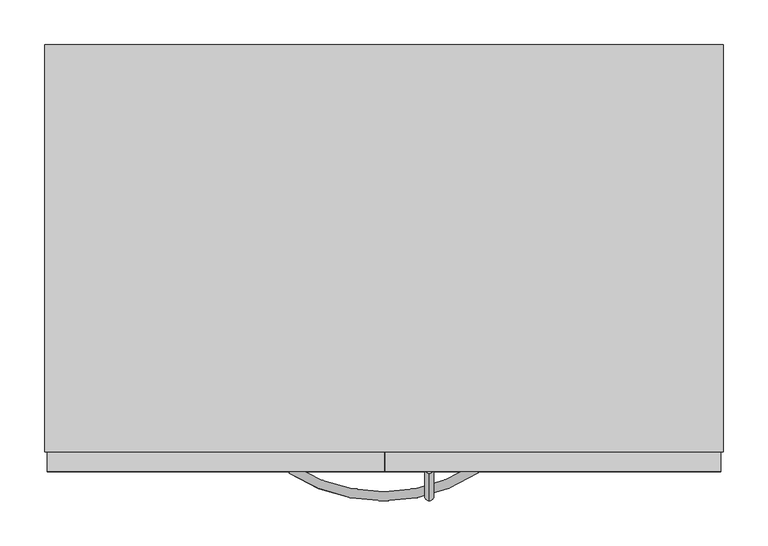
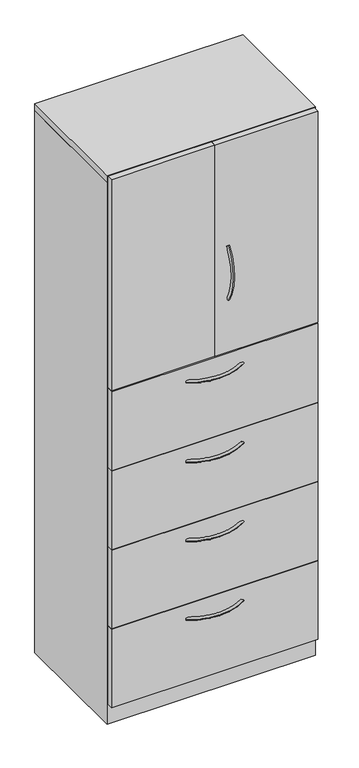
"""IFC4 building model written with IfcOpenShell, lengths in millimetres: furniture geometry, Steelcase - Universal Storage - Cabinet - Combination - Proud Steel : 83 1/2H - Hinged Doors/4 Drawers - 18 7/8D x 30W."""

from ifc_helpers import new_model, si_unit, point, frame, origin, place, context, project, spatial, polyline, circle_curve, ellipse_curve, trimmed, outline, extrude, faceted_brep, source, transform, mapped, element, save
from ifc_brep_helpers import plane_surface, revolved_surface, advanced_brep


def furniture_1bbf713c(model_context):
    return source(origin(), model_context, "Body", "SolidModel", [
        extrude(outline(polyline([(758.8225413, -479.552), (3.1725353, -479.552), (3.1725353, -457.3261219), (758.8225413, -457.3261219), (758.8225413, -479.552)])), frame((0.0, 0.0, 77.724), z_axis=(0.0, 0.0, 1.0), x_axis=(1.0, 0.0, 0.0)), (0.0, 0.0, 1.0), 303.276),
        extrude(outline(polyline([(758.8225413, -479.552), (3.1725353, -479.552), (3.1725353, -457.3261219), (758.8225413, -457.3261219), (758.8225413, -479.552)])), frame((0.0, 0.0, 382.524), z_axis=(0.0, 0.0, 1.0), x_axis=(1.0, 0.0, 0.0)), (0.0, 0.0, 1.0), 303.276),
        extrude(outline(polyline([(758.8225413, -479.552), (3.1725353, -479.552), (3.1725353, -457.3261219), (758.8225413, -457.3261219), (758.8225413, -479.552)])), frame((0.0, 0.0, 687.3240349), z_axis=(0.0, 0.0, 1.0), x_axis=(1.0, 0.0, 0.0)), (0.0, 0.0, 1.0), 303.2759651),
        extrude(outline(polyline([(758.8225413, -479.552), (3.1725353, -479.552), (3.1725353, -457.3261219), (758.8225413, -457.3261219), (758.8225413, -479.552)])), frame((0.0, 0.0, 992.1240349), z_axis=(0.0, 0.0, 1.0), x_axis=(1.0, 0.0, 0.0)), (0.0, 0.0, 1.0), 306.4509893),
        extrude(outline(polyline([(381.0, -479.552), (3.1725353, -479.552), (3.1725353, -457.3261219), (381.0, -457.3261219), (381.0, -479.552)])), frame((0.0, 0.0, 1302.3862596), z_axis=(0.0, 0.0, 1.0), x_axis=(1.0, 0.0, 0.0)), (0.0, 0.0, 1.0), 815.34),
        extrude(outline(polyline([(758.8225413, -479.552), (382.5239992, -479.552), (382.5239992, -457.3261219), (758.8225413, -457.3261219), (758.8225413, -479.552)])), frame((0.0, 0.0, 1302.3862596), z_axis=(0.0, 0.0, 1.0), x_axis=(1.0, 0.0, 0.0)), (0.0, 0.0, 1.0), 815.34),
        advanced_brep(
        [(431.7682496, -481.5705994, 1714.523666), (431.7682496, -473.0108019, 1709.0505073), (431.7682496, -481.1337636, 1502.2167456), (431.7682496, -472.5965612, 1507.7250825)],
        [
            (0, 1, circle_curve(frame((431.7682496, -477.2907007, 1711.7870866), z_axis=(0.0, 0.5386967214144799, 0.842499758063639), x_axis=(0.0, 0.842499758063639, -0.5386967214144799)), 5.08)),
            (1, 0, circle_curve(frame((431.7682496, -477.2907007, 1711.7870866), z_axis=(0.0, 0.5386967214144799, 0.842499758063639), x_axis=(0.0, 0.842499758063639, -0.5386967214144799)), 5.08)),
            (2, 3, circle_curve(frame((431.7682496, -476.8651624, 1504.9709141), z_axis=(0.0, 0.5421591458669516, -0.8402758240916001), x_axis=(0.0, 0.8402758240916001, 0.5421591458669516)), 5.08)),
            (3, 2, circle_curve(frame((431.7682496, -476.8651624, 1504.9709141), z_axis=(0.0, 0.5421591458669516, -0.8402758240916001), x_axis=(0.0, 0.8402758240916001, 0.5421591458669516)), 5.08)),
            (3, 1, circle_curve(frame((431.7682496, -316.0827352, 1608.7102589), z_axis=(-1.0, 0.0, 0.0), x_axis=(0.0, -0.8424997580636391, 0.5386967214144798)), 186.2648211)),
            (0, 2, circle_curve(frame((431.7682496, -316.0827352, 1608.7102589), z_axis=(1.0, 0.0, 0.0), x_axis=(0.0, -0.8424997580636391, 0.5386967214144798)), 196.4248211)),
        ],
        [
            plane_surface(frame((432.5619996, -476.6365286, 1711.3688072), z_axis=(0.0, 0.5386967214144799, 0.8424997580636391), x_axis=(1.0, 0.0, 0.0))),
            plane_surface(frame((432.5619996, -476.2127171, 1505.391882), z_axis=(0.0, 0.5421591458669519, -0.8402758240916), x_axis=(1.0, 0.0, 0.0))),
            revolved_surface(trimmed(ellipse_curve(frame((431.7682496, -477.2907007, 1711.7870866), z_axis=(0.0, 0.5386967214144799, 0.842499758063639), x_axis=(0.0, 0.842499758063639, -0.5386967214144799)), 5.08, 5.08), [point((431.7682496, -481.5705994, 1714.523666))], [point((431.7682496, -473.0108019, 1709.0505073))], True, "CARTESIAN"), (432.5619996, -316.0827352, 1608.7102589), (1.0, 0.0, 0.0)),
            revolved_surface(trimmed(ellipse_curve(frame((431.7682496, -477.2907007, 1711.7870866), z_axis=(0.0, 0.5386967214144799, 0.842499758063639), x_axis=(0.0, 0.842499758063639, -0.5386967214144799)), 5.08, 5.08), [point((431.7682496, -473.0108019, 1709.0505073))], [point((431.7682496, -481.5705994, 1714.523666))], True, "CARTESIAN"), (432.5619996, -316.0827352, 1608.7102589), (1.0, 0.0, 0.0)),
        ],
        [
            (0, [[1, 2]]),
            (1, [[3, 4]]),
            (2, [[5, -1, 6, -4]]),
            (3, [[-6, -2, -5, -3]]),
        ],
    ),
        advanced_brep(
        [(274.4245932, -481.5705994, 1240.6312742), (279.8977519, -473.0108019, 1240.6312742), (486.7315136, -481.1337636, 1240.6312742), (481.2231767, -472.5965612, 1240.6312742)],
        [
            (0, 1, circle_curve(frame((277.1611726, -477.2907007, 1240.6312742), z_axis=(-0.8424997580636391, 0.5386967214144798, 0.0), x_axis=(0.5386967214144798, 0.8424997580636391, 0.0)), 5.08)),
            (1, 0, circle_curve(frame((277.1611726, -477.2907007, 1240.6312742), z_axis=(-0.8424997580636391, 0.5386967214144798, 0.0), x_axis=(0.5386967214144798, 0.8424997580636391, 0.0)), 5.08)),
            (2, 3, circle_curve(frame((483.9773452, -476.8651624, 1240.6312742), z_axis=(0.8402758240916, 0.5421591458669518, 0.0), x_axis=(-0.5421591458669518, 0.8402758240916, 0.0)), 5.08)),
            (3, 2, circle_curve(frame((483.9773452, -476.8651624, 1240.6312742), z_axis=(0.8402758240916, 0.5421591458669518, 0.0), x_axis=(-0.5421591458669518, 0.8402758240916, 0.0)), 5.08)),
            (3, 1, circle_curve(frame((380.2380004, -316.0827352, 1240.6312742), z_axis=(0.0, 0.0, -1.0), x_axis=(-0.5386967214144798, -0.8424997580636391, 0.0)), 186.2648211)),
            (0, 2, circle_curve(frame((380.2380004, -316.0827352, 1240.6312742), z_axis=(0.0, 0.0, 1.0), x_axis=(-0.5386967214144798, -0.8424997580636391, 0.0)), 196.4248211)),
        ],
        [
            plane_surface(frame((277.5794521, -476.6365286, 1241.4250242), z_axis=(-0.8424997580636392, 0.5386967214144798, 0.0), x_axis=(0.0, 0.0, 1.0))),
            plane_surface(frame((483.5563772, -476.2127171, 1241.4250242), z_axis=(0.8402758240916, 0.5421591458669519, 0.0), x_axis=(0.0, 0.0, 1.0))),
            revolved_surface(trimmed(ellipse_curve(frame((277.1611726, -477.2907007, 1240.6312742), z_axis=(-0.8424997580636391, 0.5386967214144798, 0.0), x_axis=(0.5386967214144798, 0.8424997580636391, 0.0)), 5.08, 5.08), [point((274.4245932, -481.5705994, 1240.6312742))], [point((279.8977519, -473.0108019, 1240.6312742))], True, "CARTESIAN"), (380.2380004, -316.0827352, 1241.4250242), (0.0, 0.0, 1.0)),
            revolved_surface(trimmed(ellipse_curve(frame((277.1611726, -477.2907007, 1240.6312742), z_axis=(-0.8424997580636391, 0.5386967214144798, 0.0), x_axis=(0.5386967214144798, 0.8424997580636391, 0.0)), 5.08, 5.08), [point((279.8977519, -473.0108019, 1240.6312742))], [point((274.4245932, -481.5705994, 1240.6312742))], True, "CARTESIAN"), (380.2380004, -316.0827352, 1241.4250242), (0.0, 0.0, 1.0)),
        ],
        [
            (0, [[1, 2]]),
            (1, [[3, 4]]),
            (2, [[5, -1, 6, -4]]),
            (3, [[-6, -2, -5, -3]]),
        ],
    ),
        advanced_brep(
        [(274.4245932, -481.5705994, 323.56425), (279.8977519, -473.0108019, 323.56425), (486.7315136, -481.1337636, 323.56425), (481.2231767, -472.5965612, 323.56425)],
        [
            (0, 1, circle_curve(frame((277.1611726, -477.2907007, 323.56425), z_axis=(-0.8424997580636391, 0.5386967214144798, 0.0), x_axis=(0.5386967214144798, 0.8424997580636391, 0.0)), 5.08)),
            (1, 0, circle_curve(frame((277.1611726, -477.2907007, 323.56425), z_axis=(-0.8424997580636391, 0.5386967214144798, 0.0), x_axis=(0.5386967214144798, 0.8424997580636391, 0.0)), 5.08)),
            (2, 3, circle_curve(frame((483.9773452, -476.8651624, 323.56425), z_axis=(0.8402758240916, 0.5421591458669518, 0.0), x_axis=(-0.5421591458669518, 0.8402758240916, 0.0)), 5.08)),
            (3, 2, circle_curve(frame((483.9773452, -476.8651624, 323.56425), z_axis=(0.8402758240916, 0.5421591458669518, 0.0), x_axis=(-0.5421591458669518, 0.8402758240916, 0.0)), 5.08)),
            (3, 1, circle_curve(frame((380.2380004, -316.0827352, 323.56425), z_axis=(0.0, 0.0, -1.0), x_axis=(-0.5386967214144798, -0.8424997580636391, 0.0)), 186.2648211)),
            (0, 2, circle_curve(frame((380.2380004, -316.0827352, 323.56425), z_axis=(0.0, 0.0, 1.0), x_axis=(-0.5386967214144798, -0.8424997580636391, 0.0)), 196.4248211)),
        ],
        [
            plane_surface(frame((277.5794521, -476.6365286, 324.358), z_axis=(-0.8424997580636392, 0.5386967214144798, 0.0), x_axis=(0.0, 0.0, 1.0))),
            plane_surface(frame((483.5563772, -476.2127171, 324.358), z_axis=(0.8402758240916, 0.5421591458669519, 0.0), x_axis=(0.0, 0.0, 1.0))),
            revolved_surface(trimmed(ellipse_curve(frame((277.1611726, -477.2907007, 323.56425), z_axis=(-0.8424997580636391, 0.5386967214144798, 0.0), x_axis=(0.5386967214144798, 0.8424997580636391, 0.0)), 5.08, 5.08), [point((274.4245932, -481.5705994, 323.56425))], [point((279.8977519, -473.0108019, 323.56425))], True, "CARTESIAN"), (380.2380004, -316.0827352, 324.358), (0.0, 0.0, 1.0)),
            revolved_surface(trimmed(ellipse_curve(frame((277.1611726, -477.2907007, 323.56425), z_axis=(-0.8424997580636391, 0.5386967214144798, 0.0), x_axis=(0.5386967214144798, 0.8424997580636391, 0.0)), 5.08, 5.08), [point((279.8977519, -473.0108019, 323.56425))], [point((274.4245932, -481.5705994, 323.56425))], True, "CARTESIAN"), (380.2380004, -316.0827352, 324.358), (0.0, 0.0, 1.0)),
        ],
        [
            (0, [[1, 2]]),
            (1, [[3, 4]]),
            (2, [[5, -1, 6, -4]]),
            (3, [[-6, -2, -5, -3]]),
        ],
    ),
        advanced_brep(
        [(274.4245932, -481.5705994, 627.85625), (279.8977519, -473.0108019, 627.85625), (486.7315136, -481.1337636, 627.85625), (481.2231767, -472.5965612, 627.85625)],
        [
            (0, 1, circle_curve(frame((277.1611726, -477.2907007, 627.85625), z_axis=(-0.8424997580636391, 0.5386967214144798, 0.0), x_axis=(0.5386967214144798, 0.8424997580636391, 0.0)), 5.08)),
            (1, 0, circle_curve(frame((277.1611726, -477.2907007, 627.85625), z_axis=(-0.8424997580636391, 0.5386967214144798, 0.0), x_axis=(0.5386967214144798, 0.8424997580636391, 0.0)), 5.08)),
            (2, 3, circle_curve(frame((483.9773452, -476.8651624, 627.85625), z_axis=(0.8402758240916, 0.5421591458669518, 0.0), x_axis=(-0.5421591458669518, 0.8402758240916, 0.0)), 5.08)),
            (3, 2, circle_curve(frame((483.9773452, -476.8651624, 627.85625), z_axis=(0.8402758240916, 0.5421591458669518, 0.0), x_axis=(-0.5421591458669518, 0.8402758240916, 0.0)), 5.08)),
            (3, 1, circle_curve(frame((380.2380004, -316.0827352, 627.85625), z_axis=(0.0, 0.0, -1.0), x_axis=(-0.5386967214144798, -0.8424997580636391, 0.0)), 186.2648211)),
            (0, 2, circle_curve(frame((380.2380004, -316.0827352, 627.85625), z_axis=(0.0, 0.0, 1.0), x_axis=(-0.5386967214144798, -0.8424997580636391, 0.0)), 196.4248211)),
        ],
        [
            plane_surface(frame((277.5794521, -476.6365286, 628.65), z_axis=(-0.8424997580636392, 0.5386967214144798, 0.0), x_axis=(0.0, 0.0, 1.0))),
            plane_surface(frame((483.5563772, -476.2127171, 628.65), z_axis=(0.8402758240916, 0.5421591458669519, 0.0), x_axis=(0.0, 0.0, 1.0))),
            revolved_surface(trimmed(ellipse_curve(frame((277.1611726, -477.2907007, 627.85625), z_axis=(-0.8424997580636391, 0.5386967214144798, 0.0), x_axis=(0.5386967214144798, 0.8424997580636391, 0.0)), 5.08, 5.08), [point((274.4245932, -481.5705994, 627.85625))], [point((279.8977519, -473.0108019, 627.85625))], True, "CARTESIAN"), (380.2380004, -316.0827352, 628.65), (0.0, 0.0, 1.0)),
            revolved_surface(trimmed(ellipse_curve(frame((277.1611726, -477.2907007, 627.85625), z_axis=(-0.8424997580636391, 0.5386967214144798, 0.0), x_axis=(0.5386967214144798, 0.8424997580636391, 0.0)), 5.08, 5.08), [point((279.8977519, -473.0108019, 627.85625))], [point((274.4245932, -481.5705994, 627.85625))], True, "CARTESIAN"), (380.2380004, -316.0827352, 628.65), (0.0, 0.0, 1.0)),
        ],
        [
            (0, [[1, 2]]),
            (1, [[3, 4]]),
            (2, [[5, -1, 6, -4]]),
            (3, [[-6, -2, -5, -3]]),
        ],
    ),
        advanced_brep(
        [(274.4245932, -481.5705994, 932.65625), (279.8977519, -473.0108019, 932.65625), (486.7315136, -481.1337636, 932.65625), (481.2231767, -472.5965612, 932.65625)],
        [
            (0, 1, circle_curve(frame((277.1611726, -477.2907007, 932.65625), z_axis=(-0.8424997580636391, 0.5386967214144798, 0.0), x_axis=(0.5386967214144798, 0.8424997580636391, 0.0)), 5.08)),
            (1, 0, circle_curve(frame((277.1611726, -477.2907007, 932.65625), z_axis=(-0.8424997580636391, 0.5386967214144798, 0.0), x_axis=(0.5386967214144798, 0.8424997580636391, 0.0)), 5.08)),
            (2, 3, circle_curve(frame((483.9773452, -476.8651624, 932.65625), z_axis=(0.8402758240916, 0.5421591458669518, 0.0), x_axis=(-0.5421591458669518, 0.8402758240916, 0.0)), 5.08)),
            (3, 2, circle_curve(frame((483.9773452, -476.8651624, 932.65625), z_axis=(0.8402758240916, 0.5421591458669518, 0.0), x_axis=(-0.5421591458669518, 0.8402758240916, 0.0)), 5.08)),
            (3, 1, circle_curve(frame((380.2380004, -316.0827352, 932.65625), z_axis=(0.0, 0.0, -1.0), x_axis=(-0.5386967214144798, -0.8424997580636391, 0.0)), 186.2648211)),
            (0, 2, circle_curve(frame((380.2380004, -316.0827352, 932.65625), z_axis=(0.0, 0.0, 1.0), x_axis=(-0.5386967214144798, -0.8424997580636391, 0.0)), 196.4248211)),
        ],
        [
            plane_surface(frame((277.5794521, -476.6365286, 933.45), z_axis=(-0.8424997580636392, 0.5386967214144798, 0.0), x_axis=(0.0, 0.0, 1.0))),
            plane_surface(frame((483.5563772, -476.2127171, 933.45), z_axis=(0.8402758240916, 0.5421591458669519, 0.0), x_axis=(0.0, 0.0, 1.0))),
            revolved_surface(trimmed(ellipse_curve(frame((277.1611726, -477.2907007, 932.65625), z_axis=(-0.8424997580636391, 0.5386967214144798, 0.0), x_axis=(0.5386967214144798, 0.8424997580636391, 0.0)), 5.08, 5.08), [point((274.4245932, -481.5705994, 932.65625))], [point((279.8977519, -473.0108019, 932.65625))], True, "CARTESIAN"), (380.2380004, -316.0827352, 933.45), (0.0, 0.0, 1.0)),
            revolved_surface(trimmed(ellipse_curve(frame((277.1611726, -477.2907007, 932.65625), z_axis=(-0.8424997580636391, 0.5386967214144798, 0.0), x_axis=(0.5386967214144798, 0.8424997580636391, 0.0)), 5.08, 5.08), [point((279.8977519, -473.0108019, 932.65625))], [point((274.4245932, -481.5705994, 932.65625))], True, "CARTESIAN"), (380.2380004, -316.0827352, 933.45), (0.0, 0.0, 1.0)),
        ],
        [
            (0, [[1, 2]]),
            (1, [[3, 4]]),
            (2, [[5, -1, 6, -4]]),
            (3, [[-6, -2, -5, -3]]),
        ],
    ),
        faceted_brep([(25.4000008, -457.3261219, 76.2), (736.6000242, -457.3261219, 76.2), (736.6000242, -25.4000008, 76.2), (25.4000008, -25.4000008, 76.2), (762.0, 0.0, 0.0), (762.0, -457.3261219, 0.0), (0.0, -457.3261219, 0.0), (0.0, 0.0, 0.0), (0.0, 0.0, 2093.976), (762.0, 0.0, 2093.976), (0.0, -457.3261219, 2093.976), (762.0, -457.3261219, 2093.976), (736.6000242, -457.3261219, 2093.976), (25.4000008, -457.3261219, 2093.976), (736.6000242, -25.4000008, 2093.976), (25.4000008, -25.4000008, 2093.976)], [[[0, 1, 2, 3]], [[4, 5, 6, 7]], [[4, 7, 8, 9]], [[8, 7, 6, 10]], [[10, 6, 5, 11, 12, 1, 0, 13]], [[11, 5, 4, 9]], [[14, 12, 11, 9, 8, 10, 13, 15]], [[12, 14, 2, 1]], [[15, 13, 0, 3]], [[14, 15, 3, 2]]]),
        extrude(outline(polyline([(762.0, 0.0), (762.0, -457.3261219), (0.0, -457.3261219), (0.0, 0.0), (762.0, 0.0)])), frame((0.0, 0.0, 2095.4999516), z_axis=(0.0, 0.0, 1.0), x_axis=(1.0, 0.0, 0.0)), (0.0, 0.0, 1.0), 25.4000484),
    ])


if __name__ == "__main__":
    model = new_model("IFC4")
    model_context = context("Model", 3, world=origin())
    ifc_project = project(units=[si_unit("LENGTHUNIT", "METRE", prefix="MILLI")], contexts=[model_context])
    site = spatial("IfcSite", under=ifc_project)
    building = spatial("IfcBuilding", under=site)
    placement = place(None, origin())
    furniture_shape = furniture_1bbf713c(model_context)
    element("IfcFurniture", 1, ObjectType="Steelcase - Universal Storage - Cabinet - Combination - Proud Steel : 83 1/2H - Hinged Doors/4 Drawers - 18 7/8D x 30W", at=placement, inside=building, context=model_context, shape_type="MappedRepresentation", body=[
        mapped(furniture_shape, transform((0.0, 0.0, 0.0), x_axis=(1.0, 0.0, 0.0), y_axis=(0.0, 1.0, 0.0), z_axis=(0.0, 0.0, 1.0))),
    ])
    save(model, "model.ifc")
